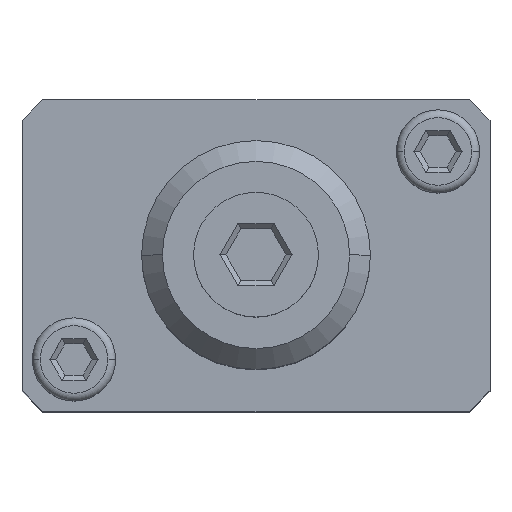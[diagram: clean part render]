
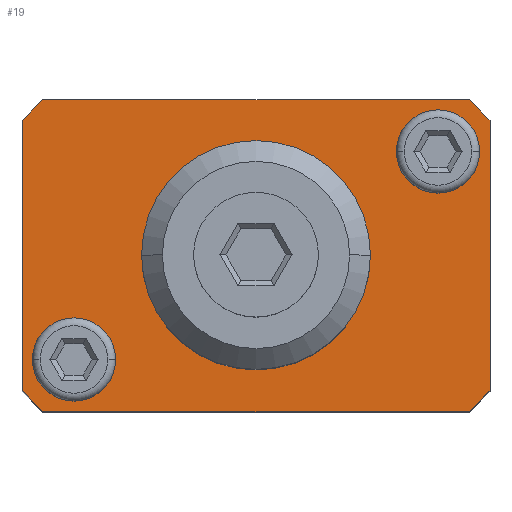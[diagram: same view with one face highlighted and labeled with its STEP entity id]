
A CAD part, top view. The second image highlights one B-rep face of the part: STEP entity #19.
In plain terms, the highlighted planar face has unit normal (0, 0, 1).
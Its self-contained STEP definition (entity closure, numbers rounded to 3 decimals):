
#3 = EDGE_LOOP ( 'NONE', ( #17, #1274 ) ) ;
#17 = ORIENTED_EDGE ( 'NONE', *, *, #1241, .F. ) ;
#18 = CARTESIAN_POINT ( 'NONE',  ( 17.5, 10., 52. ) ) ;
#19 = ADVANCED_FACE ( 'NONE', ( #304, #1481, #610, #1220 ), #843, .F. ) ;
#34 = ORIENTED_EDGE ( 'NONE', *, *, #769, .F. ) ;
#90 = CARTESIAN_POINT ( 'NONE',  ( -13.5, -10., 52. ) ) ;
#109 = DIRECTION ( 'NONE',  ( 1., 0., 0. ) ) ;
#120 = VERTEX_POINT ( 'NONE', #716 ) ;
#125 = VERTEX_POINT ( 'NONE', #2536 ) ;
#138 = AXIS2_PLACEMENT_3D ( 'NONE', #2543, #2535, #2677 ) ;
#140 = VERTEX_POINT ( 'NONE', #2497 ) ;
#177 = CARTESIAN_POINT ( 'NONE',  ( -17.5, -10., 52. ) ) ;
#181 = AXIS2_PLACEMENT_3D ( 'NONE', #177, #842, #882 ) ;
#194 = EDGE_CURVE ( 'NONE', #2680, #125, #1952, .T. ) ;
#242 = CIRCLE ( 'NONE', #2230, 4. ) ;
#257 = DIRECTION ( 'NONE',  ( -1., 0., 0. ) ) ;
#301 = ORIENTED_EDGE ( 'NONE', *, *, #2160, .T. ) ;
#304 = FACE_BOUND ( 'NONE', #3335, .T. ) ;
#438 = VECTOR ( 'NONE', #1298, 1000. ) ;
#443 = LINE ( 'NONE', #1333, #3444 ) ;
#464 = DIRECTION ( 'NONE',  ( 0., 0., 1. ) ) ;
#480 = CIRCLE ( 'NONE', #767, 4. ) ;
#491 = VERTEX_POINT ( 'NONE', #1071 ) ;
#532 = CARTESIAN_POINT ( 'NONE',  ( 0., 0., 52. ) ) ;
#551 = VECTOR ( 'NONE', #2764, 1000. ) ;
#583 = EDGE_CURVE ( 'NONE', #2729, #120, #2394, .T. ) ;
#584 = CARTESIAN_POINT ( 'NONE',  ( -20.5, 15., 52. ) ) ;
#597 = EDGE_CURVE ( 'NONE', #125, #3274, #1583, .T. ) ;
#610 = FACE_BOUND ( 'NONE', #2972, .T. ) ;
#642 = EDGE_CURVE ( 'NONE', #1695, #3241, #1619, .T. ) ;
#716 = CARTESIAN_POINT ( 'NONE',  ( 21.5, 10., 52. ) ) ;
#767 = AXIS2_PLACEMENT_3D ( 'NONE', #3238, #3222, #3212 ) ;
#769 = EDGE_CURVE ( 'NONE', #120, #2729, #242, .T. ) ;
#781 = DIRECTION ( 'NONE',  ( 0., 0., -1. ) ) ;
#807 = CARTESIAN_POINT ( 'NONE',  ( 0., 0., 52. ) ) ;
#813 = CARTESIAN_POINT ( 'NONE',  ( -22.5, -13., 52. ) ) ;
#842 = DIRECTION ( 'NONE',  ( 0., 0., 1. ) ) ;
#843 = PLANE ( 'NONE',  #3388 ) ;
#858 = VECTOR ( 'NONE', #109, 1000. ) ;
#882 = DIRECTION ( 'NONE',  ( -1., 0., 0. ) ) ;
#926 = DIRECTION ( 'NONE',  ( 0., 1., 0. ) ) ;
#936 = CARTESIAN_POINT ( 'NONE',  ( 22.5, 13., 52. ) ) ;
#964 = CIRCLE ( 'NONE', #181, 4. ) ;
#1003 = DIRECTION ( 'NONE',  ( -0.707, -0.707, 0. ) ) ;
#1045 = EDGE_CURVE ( 'NONE', #2537, #491, #2529, .T. ) ;
#1054 = VECTOR ( 'NONE', #1003, 1000. ) ;
#1071 = CARTESIAN_POINT ( 'NONE',  ( 20.5, -15., 52. ) ) ;
#1114 = EDGE_CURVE ( 'NONE', #3470, #2210, #2523, .T. ) ;
#1141 = CARTESIAN_POINT ( 'NONE',  ( -22.5, 13., 52. ) ) ;
#1175 = CARTESIAN_POINT ( 'NONE',  ( -22.5, -13., 52. ) ) ;
#1214 = ORIENTED_EDGE ( 'NONE', *, *, #583, .F. ) ;
#1220 = FACE_OUTER_BOUND ( 'NONE', #1388, .T. ) ;
#1241 = EDGE_CURVE ( 'NONE', #2228, #3601, #964, .T. ) ;
#1274 = ORIENTED_EDGE ( 'NONE', *, *, #2925, .F. ) ;
#1284 = DIRECTION ( 'NONE',  ( 0., 0., 1. ) ) ;
#1293 = EDGE_CURVE ( 'NONE', #2210, #3470, #1424, .T. ) ;
#1298 = DIRECTION ( 'NONE',  ( 0.707, -0.707, 0. ) ) ;
#1314 = LINE ( 'NONE', #1141, #1054 ) ;
#1333 = CARTESIAN_POINT ( 'NONE',  ( 20.5, -15., 52. ) ) ;
#1350 = ORIENTED_EDGE ( 'NONE', *, *, #2106, .T. ) ;
#1388 = EDGE_LOOP ( 'NONE', ( #1412, #1350, #2597, #2750, #1582, #301, #2841, #2481 ) ) ;
#1408 = LINE ( 'NONE', #936, #2987 ) ;
#1412 = ORIENTED_EDGE ( 'NONE', *, *, #597, .T. ) ;
#1424 = CIRCLE ( 'NONE', #1491, 11. ) ;
#1436 = ORIENTED_EDGE ( 'NONE', *, *, #1114, .F. ) ;
#1481 = FACE_BOUND ( 'NONE', #3, .T. ) ;
#1491 = AXIS2_PLACEMENT_3D ( 'NONE', #532, #464, #257 ) ;
#1507 = CARTESIAN_POINT ( 'NONE',  ( 0., 0., 52. ) ) ;
#1511 = DIRECTION ( 'NONE',  ( 0.707, 0.707, 0. ) ) ;
#1582 = ORIENTED_EDGE ( 'NONE', *, *, #1045, .T. ) ;
#1583 = LINE ( 'NONE', #2516, #1587 ) ;
#1587 = VECTOR ( 'NONE', #2593, 1000. ) ;
#1600 = VECTOR ( 'NONE', #3135, 1000. ) ;
#1619 = LINE ( 'NONE', #2706, #1600 ) ;
#1647 = CARTESIAN_POINT ( 'NONE',  ( -11., 0., 52. ) ) ;
#1683 = LINE ( 'NONE', #1175, #438 ) ;
#1695 = VERTEX_POINT ( 'NONE', #2369 ) ;
#1714 = CARTESIAN_POINT ( 'NONE',  ( -20.5, -15., 52. ) ) ;
#1715 = DIRECTION ( 'NONE',  ( -1., 0., 0. ) ) ;
#1791 = EDGE_CURVE ( 'NONE', #140, #2680, #1408, .T. ) ;
#1799 = DIRECTION ( 'NONE',  ( -1., 0., 0. ) ) ;
#1806 = ORIENTED_EDGE ( 'NONE', *, *, #1293, .F. ) ;
#1824 = CARTESIAN_POINT ( 'NONE',  ( -21.5, -10., 52. ) ) ;
#1952 = LINE ( 'NONE', #2709, #551 ) ;
#1999 = CARTESIAN_POINT ( 'NONE',  ( 13.5, 10., 52. ) ) ;
#2076 = EDGE_CURVE ( 'NONE', #3241, #2537, #1683, .T. ) ;
#2083 = CARTESIAN_POINT ( 'NONE',  ( 11., 0., 52. ) ) ;
#2106 = EDGE_CURVE ( 'NONE', #3274, #1695, #1314, .T. ) ;
#2160 = EDGE_CURVE ( 'NONE', #491, #140, #443, .T. ) ;
#2210 = VERTEX_POINT ( 'NONE', #1647 ) ;
#2228 = VERTEX_POINT ( 'NONE', #1824 ) ;
#2230 = AXIS2_PLACEMENT_3D ( 'NONE', #18, #3125, #2683 ) ;
#2356 = AXIS2_PLACEMENT_3D ( 'NONE', #1507, #1284, #1799 ) ;
#2369 = CARTESIAN_POINT ( 'NONE',  ( -22.5, 13., 52. ) ) ;
#2394 = CIRCLE ( 'NONE', #138, 4. ) ;
#2481 = ORIENTED_EDGE ( 'NONE', *, *, #194, .T. ) ;
#2497 = CARTESIAN_POINT ( 'NONE',  ( 22.5, -13., 52. ) ) ;
#2509 = CARTESIAN_POINT ( 'NONE',  ( -20.5, -15., 52. ) ) ;
#2516 = CARTESIAN_POINT ( 'NONE',  ( -20.5, 15., 52. ) ) ;
#2523 = CIRCLE ( 'NONE', #2356, 11. ) ;
#2529 = LINE ( 'NONE', #1714, #858 ) ;
#2535 = DIRECTION ( 'NONE',  ( 0., 0., 1. ) ) ;
#2536 = CARTESIAN_POINT ( 'NONE',  ( 20.5, 15., 52. ) ) ;
#2537 = VERTEX_POINT ( 'NONE', #2509 ) ;
#2543 = CARTESIAN_POINT ( 'NONE',  ( 17.5, 10., 52. ) ) ;
#2593 = DIRECTION ( 'NONE',  ( -1., 0., 0. ) ) ;
#2597 = ORIENTED_EDGE ( 'NONE', *, *, #642, .T. ) ;
#2677 = DIRECTION ( 'NONE',  ( -1., 0., 0. ) ) ;
#2680 = VERTEX_POINT ( 'NONE', #3387 ) ;
#2683 = DIRECTION ( 'NONE',  ( -1., 0., 0. ) ) ;
#2706 = CARTESIAN_POINT ( 'NONE',  ( -22.5, 13., 52. ) ) ;
#2709 = CARTESIAN_POINT ( 'NONE',  ( 20.5, 15., 52. ) ) ;
#2729 = VERTEX_POINT ( 'NONE', #1999 ) ;
#2750 = ORIENTED_EDGE ( 'NONE', *, *, #2076, .T. ) ;
#2764 = DIRECTION ( 'NONE',  ( -0.707, 0.707, 0. ) ) ;
#2841 = ORIENTED_EDGE ( 'NONE', *, *, #1791, .T. ) ;
#2925 = EDGE_CURVE ( 'NONE', #3601, #2228, #480, .T. ) ;
#2972 = EDGE_LOOP ( 'NONE', ( #1806, #1436 ) ) ;
#2987 = VECTOR ( 'NONE', #926, 1000. ) ;
#3125 = DIRECTION ( 'NONE',  ( 0., 0., 1. ) ) ;
#3135 = DIRECTION ( 'NONE',  ( 0., -1., 0. ) ) ;
#3212 = DIRECTION ( 'NONE',  ( -1., 0., 0. ) ) ;
#3222 = DIRECTION ( 'NONE',  ( 0., 0., 1. ) ) ;
#3238 = CARTESIAN_POINT ( 'NONE',  ( -17.5, -10., 52. ) ) ;
#3241 = VERTEX_POINT ( 'NONE', #813 ) ;
#3274 = VERTEX_POINT ( 'NONE', #584 ) ;
#3335 = EDGE_LOOP ( 'NONE', ( #1214, #34 ) ) ;
#3387 = CARTESIAN_POINT ( 'NONE',  ( 22.5, 13., 52. ) ) ;
#3388 = AXIS2_PLACEMENT_3D ( 'NONE', #807, #781, #1715 ) ;
#3444 = VECTOR ( 'NONE', #1511, 1000. ) ;
#3470 = VERTEX_POINT ( 'NONE', #2083 ) ;
#3601 = VERTEX_POINT ( 'NONE', #90 ) ;
